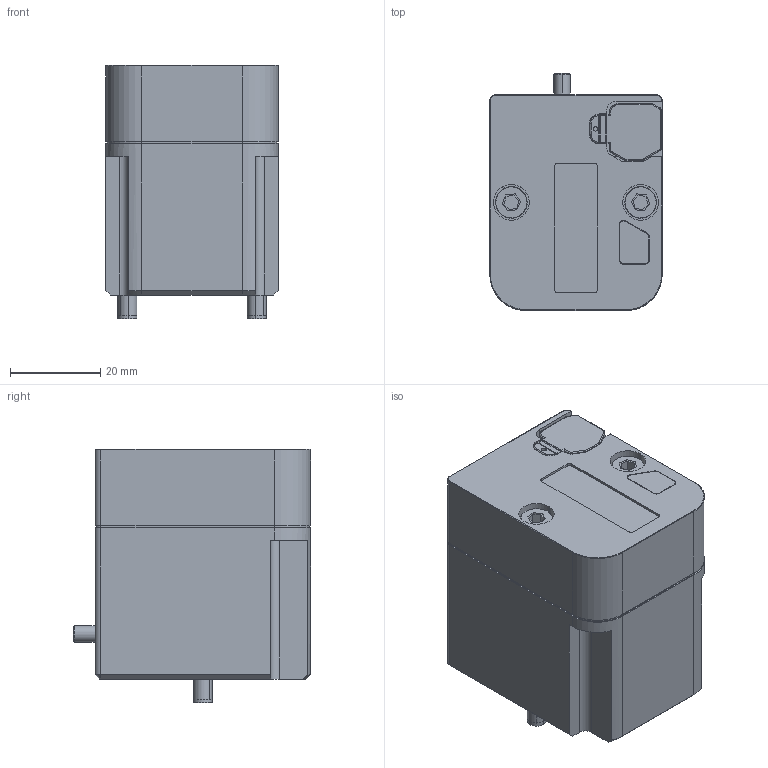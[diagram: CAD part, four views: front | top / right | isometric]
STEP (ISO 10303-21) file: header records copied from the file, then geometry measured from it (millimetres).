
FILE_DESCRIPTION (( 'STEP AP214' ), '1' );
FILE_NAME ('CVE-RT.step', '2024-02-27T15:02:58', ( '' ), ( '' ), 'SwSTEP 2.0', 'SolidWorks 2020', '' );
FILE_SCHEMA (( 'AUTOMOTIVE_DESIGN' ));
Length unit declared in the file: inch
Products named in the file (4): CVE-RT; SHCSM4-.7L50_SHCSM4-.7L50; SHCS8-32L2.00_SHCS8-32L2.00
Assembly tree (5 placements, depth 2):
  CVE-RT
    CVE-RT
    SHCS8-32L2.00_SHCS8-32L2.00  x2
    SHCSM4-.7L50_SHCSM4-.7L50  x2
Bounding box: 38.1 x 52.4 x 56.01 mm (x, y, z)
Volume: 90129.5 mm3; surface area: 17879.4 mm2
Topology: 7 solids, 7 shells, 419 faces, 1022 edges, 637 vertices
Faces by surface type: plane 235, cylinder 116, bspline 35, cone 33
Entity records: 12056 total; most frequent: CARTESIAN_POINT 2782, ORIENTED_EDGE 1916, DIRECTION 1837, EDGE_CURVE 958, LINE 653, VECTOR 653, VERTEX_POINT 597, AXIS2_PLACEMENT_3D 592
